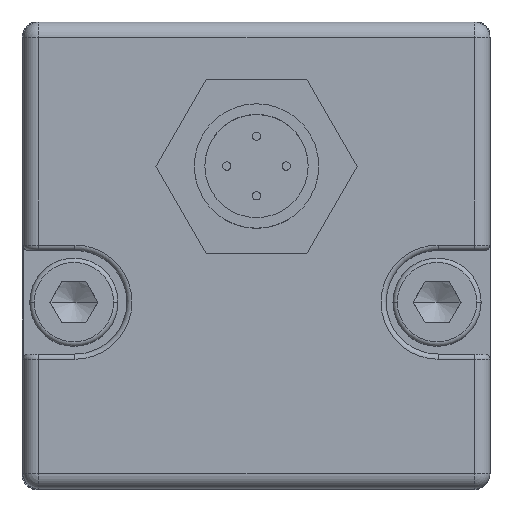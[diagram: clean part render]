
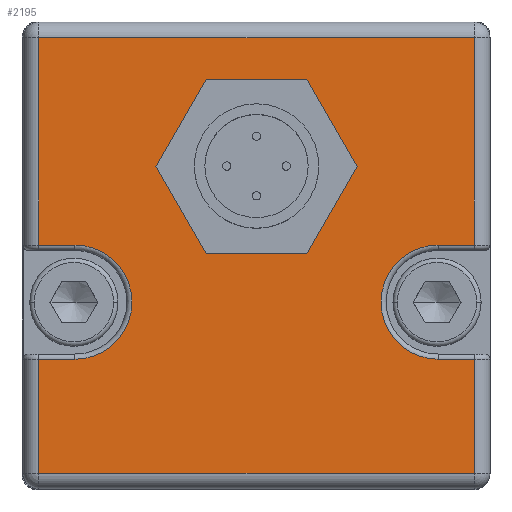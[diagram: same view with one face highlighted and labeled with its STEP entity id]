
A CAD part, top view. The second image highlights one B-rep face of the part: STEP entity #2195.
In plain terms, the highlighted planar face has unit normal (0, 0, 1) as drawn and (0, 1, 0) by its records, which use the part's own axes.
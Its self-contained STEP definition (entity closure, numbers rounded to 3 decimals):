
#311 = EDGE_LOOP ( 'NONE', ( #635, #616 ) ) ;
#609 = ORIENTED_EDGE ( 'NONE', *, *, #2357, .T. ) ;
#616 = ORIENTED_EDGE ( 'NONE', *, *, #2390, .F. ) ;
#618 = ORIENTED_EDGE ( 'NONE', *, *, #2339, .T. ) ;
#624 = ORIENTED_EDGE ( 'NONE', *, *, #2367, .T. ) ;
#635 = ORIENTED_EDGE ( 'NONE', *, *, #2362, .F. ) ;
#650 = ORIENTED_EDGE ( 'NONE', *, *, #2352, .T. ) ;
#671 = ORIENTED_EDGE ( 'NONE', *, *, #2351, .T. ) ;
#673 = ORIENTED_EDGE ( 'NONE', *, *, #2358, .T. ) ;
#675 = ORIENTED_EDGE ( 'NONE', *, *, #2359, .T. ) ;
#676 = ORIENTED_EDGE ( 'NONE', *, *, #2366, .T. ) ;
#677 = ORIENTED_EDGE ( 'NONE', *, *, #2373, .T. ) ;
#678 = ORIENTED_EDGE ( 'NONE', *, *, #2361, .T. ) ;
#1683 = VERTEX_POINT ( 'NONE', #6678 ) ;
#1689 = VERTEX_POINT ( 'NONE', #6683 ) ;
#1690 = VERTEX_POINT ( 'NONE', #6684 ) ;
#1705 = VERTEX_POINT ( 'NONE', #6699 ) ;
#1706 = VERTEX_POINT ( 'NONE', #6700 ) ;
#1769 = VERTEX_POINT ( 'NONE', #6741 ) ;
#1804 = VERTEX_POINT ( 'NONE', #6756 ) ;
#1810 = VERTEX_POINT ( 'NONE', #6759 ) ;
#1818 = VERTEX_POINT ( 'NONE', #6764 ) ;
#1824 = VERTEX_POINT ( 'NONE', #6766 ) ;
#1909 = VERTEX_POINT ( 'NONE', #6798 ) ;
#1938 = VERTEX_POINT ( 'NONE', #6815 ) ;
#1984 = VERTEX_POINT ( 'NONE', #6842 ) ;
#1986 = VERTEX_POINT ( 'NONE', #6843 ) ;
#2099 = AXIS2_PLACEMENT_3D ( 'NONE', #3282, #3307, #3308 ) ;
#2102 = AXIS2_PLACEMENT_3D ( 'NONE', #3299, #3320, #3321 ) ;
#2108 = AXIS2_PLACEMENT_3D ( 'NONE', #3345, #3348, #3349 ) ;
#2117 = AXIS2_PLACEMENT_3D ( 'NONE', #3381, #3391, #3392 ) ;
#2195 = ADVANCED_FACE ( 'NONE', ( #7448, #7449 ), #5146, .T. ) ;
#2339 = EDGE_CURVE ( 'NONE', #1690, #1986, #3665, .T. ) ;
#2351 = EDGE_CURVE ( 'NONE', #1909, #1690, #3696, .T. ) ;
#2352 = EDGE_CURVE ( 'NONE', #1986, #1705, #3698, .T. ) ;
#2356 = EDGE_CURVE ( 'NONE', #1810, #1909, #3706, .T. ) ;
#2357 = EDGE_CURVE ( 'NONE', #1984, #1706, #3685, .T. ) ;
#2358 = EDGE_CURVE ( 'NONE', #1706, #1810, #3707, .T. ) ;
#2359 = EDGE_CURVE ( 'NONE', #1705, #1689, #3709, .T. ) ;
#2360 = EDGE_CURVE ( 'NONE', #1769, #1984, #3711, .T. ) ;
#2361 = EDGE_CURVE ( 'NONE', #1818, #1824, #3713, .T. ) ;
#2362 = EDGE_CURVE ( 'NONE', #1804, #1683, #3716, .T. ) ;
#2366 = EDGE_CURVE ( 'NONE', #1824, #1769, #3705, .T. ) ;
#2367 = EDGE_CURVE ( 'NONE', #1689, #1938, #3722, .T. ) ;
#2373 = EDGE_CURVE ( 'NONE', #1938, #1818, #3731, .T. ) ;
#2390 = EDGE_CURVE ( 'NONE', #1683, #1804, #3757, .T. ) ;
#3262 = CARTESIAN_POINT ( 'NONE',  ( -21., 7., 22.5 ) ) ;
#3270 = DIRECTION ( 'NONE',  ( 0., 0., 1. ) ) ;
#3282 = CARTESIAN_POINT ( 'NONE',  ( -17.5, 7., 4.5 ) ) ;
#3295 = CARTESIAN_POINT ( 'NONE',  ( 22.5, 7., 10. ) ) ;
#3296 = DIRECTION ( 'NONE',  ( -1., 0., 0. ) ) ;
#3297 = CARTESIAN_POINT ( 'NONE',  ( 22.5, 7., 21. ) ) ;
#3298 = DIRECTION ( 'NONE',  ( 1., 0., 0. ) ) ;
#3299 = CARTESIAN_POINT ( 'NONE',  ( 0., 7., -8.6 ) ) ;
#3307 = DIRECTION ( 'NONE',  ( 0., -1., 0. ) ) ;
#3308 = DIRECTION ( 'NONE',  ( 0., 0., 1. ) ) ;
#3309 = CARTESIAN_POINT ( 'NONE',  ( -21., 7., 22.5 ) ) ;
#3310 = DIRECTION ( 'NONE',  ( 0., 0., 1. ) ) ;
#3311 = CARTESIAN_POINT ( 'NONE',  ( 22.5, 7., -1. ) ) ;
#3312 = DIRECTION ( 'NONE',  ( 1., 0., 0. ) ) ;
#3313 = CARTESIAN_POINT ( 'NONE',  ( 21., 7., 9.5 ) ) ;
#3314 = DIRECTION ( 'NONE',  ( 0., 0., -1. ) ) ;
#3315 = CARTESIAN_POINT ( 'NONE',  ( 22.5, 7., -21. ) ) ;
#3316 = DIRECTION ( 'NONE',  ( -1., 0., 0. ) ) ;
#3317 = CARTESIAN_POINT ( 'NONE',  ( 22.5, 7., -1. ) ) ;
#3318 = DIRECTION ( 'NONE',  ( 1., 0., 0. ) ) ;
#3320 = DIRECTION ( 'NONE',  ( 0., 1., 0. ) ) ;
#3321 = DIRECTION ( 'NONE',  ( 0., 0., 1. ) ) ;
#3330 = CARTESIAN_POINT ( 'NONE',  ( 21., 7., -22.5 ) ) ;
#3331 = DIRECTION ( 'NONE',  ( 0., 0., -1. ) ) ;
#3332 = CARTESIAN_POINT ( 'NONE',  ( 22.5, 7., 10. ) ) ;
#3333 = DIRECTION ( 'NONE',  ( -1., 0., 0. ) ) ;
#3345 = CARTESIAN_POINT ( 'NONE',  ( 17.5, 7., 4.5 ) ) ;
#3348 = DIRECTION ( 'NONE',  ( 0., -1., 0. ) ) ;
#3349 = DIRECTION ( 'NONE',  ( 0., 0., 1. ) ) ;
#3381 = CARTESIAN_POINT ( 'NONE',  ( 0., 7., -8.6 ) ) ;
#3391 = DIRECTION ( 'NONE',  ( 0., 1., 0. ) ) ;
#3392 = DIRECTION ( 'NONE',  ( 0., 0., 1. ) ) ;
#3623 = AXIS2_PLACEMENT_3D ( 'NONE', #5138, #5147, #5148 ) ;
#3665 = LINE ( 'NONE', #3262, #3674 ) ;
#3674 = VECTOR ( 'NONE', #3270, 1000. ) ;
#3685 = LINE ( 'NONE', #3309, #3701 ) ;
#3696 = LINE ( 'NONE', #3295, #3697 ) ;
#3697 = VECTOR ( 'NONE', #3296, 1000. ) ;
#3698 = LINE ( 'NONE', #3297, #3699 ) ;
#3699 = VECTOR ( 'NONE', #3298, 1000. ) ;
#3701 = VECTOR ( 'NONE', #3310, 1000. ) ;
#3705 = LINE ( 'NONE', #3330, #3718 ) ;
#3706 = CIRCLE ( 'NONE', #2099, 5.5 ) ;
#3707 = LINE ( 'NONE', #3311, #3708 ) ;
#3708 = VECTOR ( 'NONE', #3312, 1000. ) ;
#3709 = LINE ( 'NONE', #3313, #3710 ) ;
#3710 = VECTOR ( 'NONE', #3314, 1000. ) ;
#3711 = LINE ( 'NONE', #3315, #3712 ) ;
#3712 = VECTOR ( 'NONE', #3316, 1000. ) ;
#3713 = LINE ( 'NONE', #3317, #3714 ) ;
#3714 = VECTOR ( 'NONE', #3318, 1000. ) ;
#3716 = CIRCLE ( 'NONE', #2102, 6.5 ) ;
#3718 = VECTOR ( 'NONE', #3331, 1000. ) ;
#3722 = LINE ( 'NONE', #3332, #3723 ) ;
#3723 = VECTOR ( 'NONE', #3333, 1000. ) ;
#3731 = CIRCLE ( 'NONE', #2108, 5.5 ) ;
#3757 = CIRCLE ( 'NONE', #2117, 6.5 ) ;
#5138 = CARTESIAN_POINT ( 'NONE',  ( 22.5, 7., 22.5 ) ) ;
#5146 = PLANE ( 'NONE',  #3623 ) ;
#5147 = DIRECTION ( 'NONE',  ( 0., 1., 0. ) ) ;
#5148 = DIRECTION ( 'NONE',  ( 0., 0., 1. ) ) ;
#6678 = CARTESIAN_POINT ( 'NONE',  ( 0., 7., -15.1 ) ) ;
#6683 = CARTESIAN_POINT ( 'NONE',  ( 21., 7., 10. ) ) ;
#6684 = CARTESIAN_POINT ( 'NONE',  ( -21., 7., 10. ) ) ;
#6699 = CARTESIAN_POINT ( 'NONE',  ( 21., 7., 21. ) ) ;
#6700 = CARTESIAN_POINT ( 'NONE',  ( -21., 7., -1. ) ) ;
#6741 = CARTESIAN_POINT ( 'NONE',  ( 21., 7., -21. ) ) ;
#6756 = CARTESIAN_POINT ( 'NONE',  ( 0., 7., -2.1 ) ) ;
#6759 = CARTESIAN_POINT ( 'NONE',  ( -17.5, 7., -1. ) ) ;
#6764 = CARTESIAN_POINT ( 'NONE',  ( 17.5, 7., -1. ) ) ;
#6766 = CARTESIAN_POINT ( 'NONE',  ( 21., 7., -1. ) ) ;
#6798 = CARTESIAN_POINT ( 'NONE',  ( -17.5, 7., 10. ) ) ;
#6815 = CARTESIAN_POINT ( 'NONE',  ( 17.5, 7., 10. ) ) ;
#6842 = CARTESIAN_POINT ( 'NONE',  ( -21., 7., -21. ) ) ;
#6843 = CARTESIAN_POINT ( 'NONE',  ( -21., 7., 21. ) ) ;
#7093 = EDGE_LOOP ( 'NONE', ( #675, #624, #677, #678, #676, #7361, #609, #673, #7354, #671, #618, #650 ) ) ;
#7354 = ORIENTED_EDGE ( 'NONE', *, *, #2356, .T. ) ;
#7361 = ORIENTED_EDGE ( 'NONE', *, *, #2360, .T. ) ;
#7448 = FACE_BOUND ( 'NONE', #311, .T. ) ;
#7449 = FACE_OUTER_BOUND ( 'NONE', #7093, .T. ) ;
